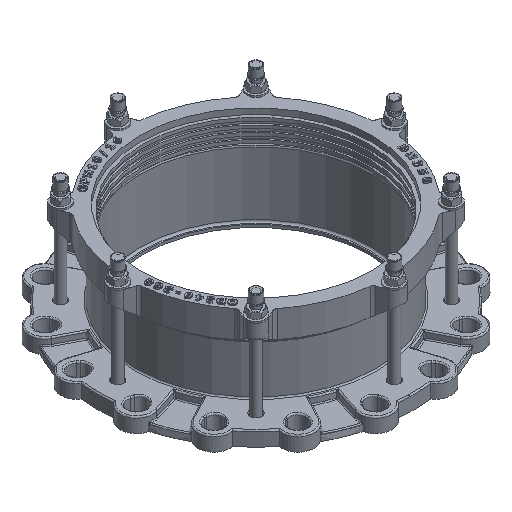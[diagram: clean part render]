
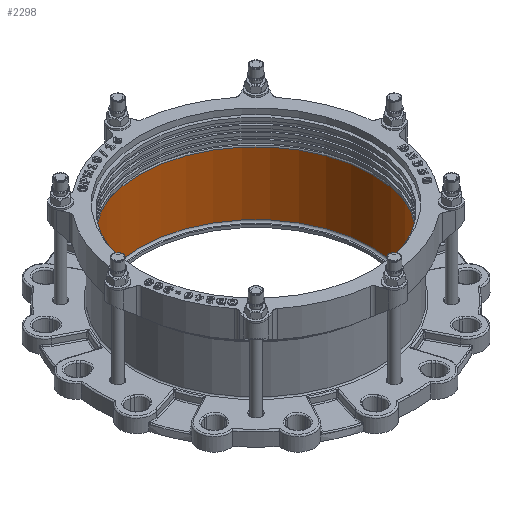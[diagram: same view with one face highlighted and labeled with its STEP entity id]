
A CAD part, isometric view. The second image highlights one B-rep face of the part: STEP entity #2298.
In plain terms, the highlighted cylindrical face has radius 180 mm (diameter 360 mm), a full revolution.
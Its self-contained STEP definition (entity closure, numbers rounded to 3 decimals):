
#2298=ADVANCED_FACE('',(#16748,#16750),#16752,.F.);
#16748=FACE_OUTER_BOUND('',#16749,.T.);
#16749=EDGE_LOOP('',(#24755));
#16750=FACE_OUTER_BOUND('',#16751,.T.);
#16751=EDGE_LOOP('',(#24756));
#16752=CYLINDRICAL_SURFACE('',#16753,180.);
#16753=AXIS2_PLACEMENT_3D('',#16754,#16755,#16756);
#16754=CARTESIAN_POINT('',(0.,0.,4.));
#16755=DIRECTION('',(0.,0.,1.));
#16756=DIRECTION('',(-1.,0.,0.));
#24755=ORIENTED_EDGE('',*,*,#31316,.F.);
#24756=ORIENTED_EDGE('',*,*,#31317,.T.);
#31316=EDGE_CURVE('',#35665,#35665,#35666,.T.);
#31317=EDGE_CURVE('',#35667,#35667,#35668,.F.);
#35665=VERTEX_POINT('',#51100);
#35666=CIRCLE('',#51101,180.);
#35667=VERTEX_POINT('',#51105);
#35668=CIRCLE('',#51106,180.);
#51100=CARTESIAN_POINT('',(0.,180.,104.5));
#51101=AXIS2_PLACEMENT_3D('',#51102,#51103,#51104);
#51102=CARTESIAN_POINT('',(0.,0.,104.5));
#51103=DIRECTION('',(0.,0.,-1.));
#51104=DIRECTION('',(0.,1.,0.));
#51105=CARTESIAN_POINT('',(0.,180.,7.));
#51106=AXIS2_PLACEMENT_3D('',#51107,#51108,#51109);
#51107=CARTESIAN_POINT('',(0.,0.,7.));
#51108=DIRECTION('',(0.,0.,1.));
#51109=DIRECTION('',(0.,1.,0.));
